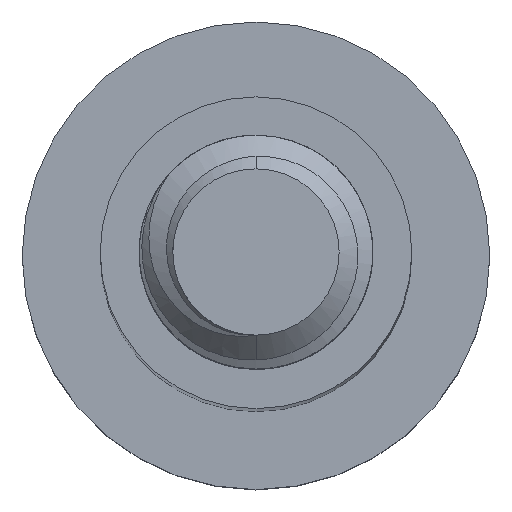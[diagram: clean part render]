
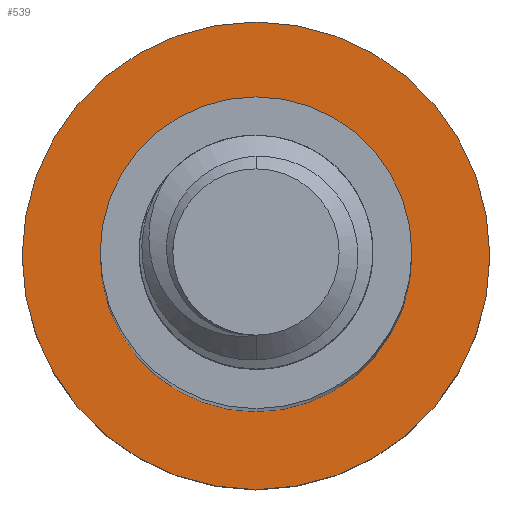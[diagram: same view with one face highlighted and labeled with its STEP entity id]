
A CAD part, top view. The second image highlights one B-rep face of the part: STEP entity #539.
In plain terms, the highlighted planar face has unit normal (0, 0, 1).
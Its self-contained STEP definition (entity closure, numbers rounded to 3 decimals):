
#2 = CARTESIAN_POINT ( 'NONE',  ( 0., 0., -45. ) ) ;
#39 = CARTESIAN_POINT ( 'NONE',  ( 6., 0., -45. ) ) ;
#57 = EDGE_LOOP ( 'NONE', ( #2529, #4240 ) ) ;
#124 = AXIS2_PLACEMENT_3D ( 'NONE', #2888, #2538, #1527 ) ;
#193 = ORIENTED_EDGE ( 'NONE', *, *, #3240, .T. ) ;
#368 = EDGE_CURVE ( 'NONE', #414, #824, #1552, .T. ) ;
#387 = VERTEX_POINT ( 'NONE', #2064 ) ;
#414 = VERTEX_POINT ( 'NONE', #1452 ) ;
#539 = ADVANCED_FACE ( 'NONE', ( #871, #2826 ), #3514, .F. ) ;
#693 = CARTESIAN_POINT ( 'NONE',  ( 4., 0., -45. ) ) ;
#724 = DIRECTION ( 'NONE',  ( -1., 0., 0. ) ) ;
#801 = VERTEX_POINT ( 'NONE', #693 ) ;
#824 = VERTEX_POINT ( 'NONE', #39 ) ;
#832 = DIRECTION ( 'NONE',  ( -1., 0., 0. ) ) ;
#871 = FACE_BOUND ( 'NONE', #1352, .T. ) ;
#1194 = CARTESIAN_POINT ( 'NONE',  ( 0., 0., -45. ) ) ;
#1328 = ORIENTED_EDGE ( 'NONE', *, *, #3748, .T. ) ;
#1352 = EDGE_LOOP ( 'NONE', ( #193, #1328 ) ) ;
#1452 = CARTESIAN_POINT ( 'NONE',  ( -6., 0., -45. ) ) ;
#1527 = DIRECTION ( 'NONE',  ( -1., 0., 0. ) ) ;
#1552 = CIRCLE ( 'NONE', #3979, 6. ) ;
#1579 = CARTESIAN_POINT ( 'NONE',  ( 0., 0., -45. ) ) ;
#1707 = AXIS2_PLACEMENT_3D ( 'NONE', #1579, #3181, #1844 ) ;
#1844 = DIRECTION ( 'NONE',  ( -1., 0., 0. ) ) ;
#2050 = CIRCLE ( 'NONE', #2184, 4. ) ;
#2064 = CARTESIAN_POINT ( 'NONE',  ( -4., 0., -45. ) ) ;
#2184 = AXIS2_PLACEMENT_3D ( 'NONE', #2, #2255, #724 ) ;
#2239 = DIRECTION ( 'NONE',  ( 0., 0., -1. ) ) ;
#2255 = DIRECTION ( 'NONE',  ( 0., 0., -1. ) ) ;
#2374 = CARTESIAN_POINT ( 'NONE',  ( 0., 0., -45. ) ) ;
#2498 = DIRECTION ( 'NONE',  ( -1., 0., 0. ) ) ;
#2529 = ORIENTED_EDGE ( 'NONE', *, *, #3104, .F. ) ;
#2538 = DIRECTION ( 'NONE',  ( 0., 0., -1. ) ) ;
#2595 = CIRCLE ( 'NONE', #3287, 6. ) ;
#2826 = FACE_OUTER_BOUND ( 'NONE', #57, .T. ) ;
#2888 = CARTESIAN_POINT ( 'NONE',  ( 0., 0., -45. ) ) ;
#3104 = EDGE_CURVE ( 'NONE', #824, #414, #2595, .T. ) ;
#3181 = DIRECTION ( 'NONE',  ( 0., 0., -1. ) ) ;
#3240 = EDGE_CURVE ( 'NONE', #387, #801, #3719, .T. ) ;
#3287 = AXIS2_PLACEMENT_3D ( 'NONE', #1194, #2239, #2498 ) ;
#3429 = DIRECTION ( 'NONE',  ( 0., 0., -1. ) ) ;
#3514 = PLANE ( 'NONE',  #124 ) ;
#3719 = CIRCLE ( 'NONE', #1707, 4. ) ;
#3748 = EDGE_CURVE ( 'NONE', #801, #387, #2050, .T. ) ;
#3979 = AXIS2_PLACEMENT_3D ( 'NONE', #2374, #3429, #832 ) ;
#4240 = ORIENTED_EDGE ( 'NONE', *, *, #368, .F. ) ;
